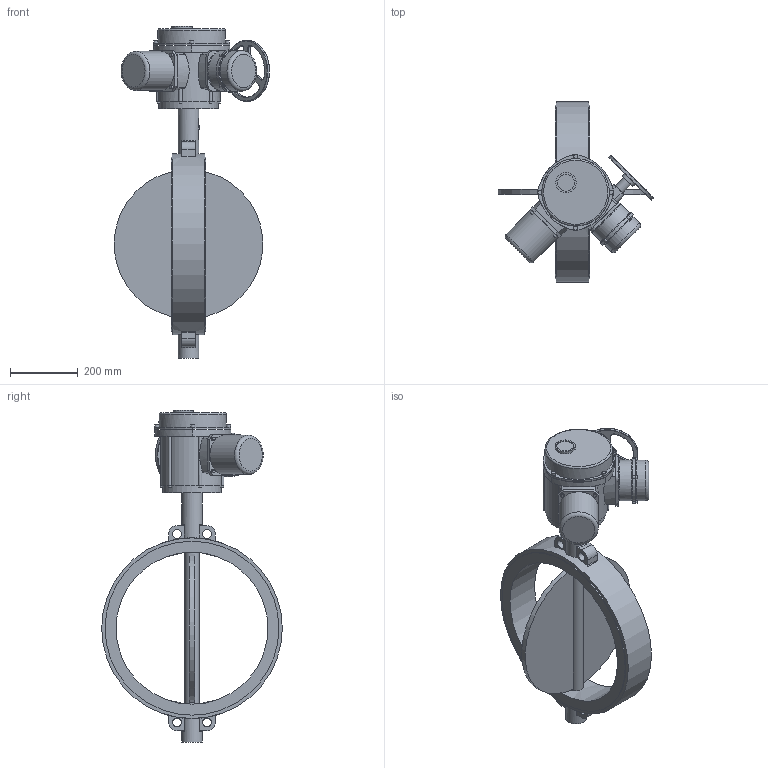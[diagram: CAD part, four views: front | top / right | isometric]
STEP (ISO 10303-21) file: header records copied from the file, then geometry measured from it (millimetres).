
FILE_DESCRIPTION(('STEP AP203'), '1');
FILE_NAME('青蜮铕 017W.YS_DN450_PN10_QT.Z 180', '', ('UNSPECIFIED'), ('UNSPECIFIED'), 'ASCON STEP Converter 1.6', 'ASCON Math Kernel', '');
FILE_SCHEMA(('CONFIG_CONTROL_DESIGN'));
Length unit declared in the file: millimetre
Bounding box: 459.42 x 535 x 983 mm (x, y, z)
Volume: 20262826.7 mm3; surface area: 1301105.3 mm2
Topology: 1 solids, 1 shells, 319 faces, 767 edges, 478 vertices
Faces by surface type: cylinder 143, plane 109, torus 51, cone 8, bspline 8
Full cylindrical faces by diameter (mm): 8 x10, 10 x4, 12 x4, 12.386 x1, 13.835 x4, 18 x4, 26 x4, 30 x1, 42 x1, 45 x1, 50 x1, 60 x1, 62 x2, 116 x1, 120 x2, 175 x1, 180 x1, 200 x1, 450 x1, 515 x2, 535 x1
Entity records: 14539 total; most frequent: CARTESIAN_POINT 4601, DIRECTION 1650, ORIENTED_EDGE 1380, AXIS2_PLACEMENT_3D 704, EDGE_CURVE 690, VERTEX_POINT 473, EDGE_LOOP 440, CIRCLE 392
